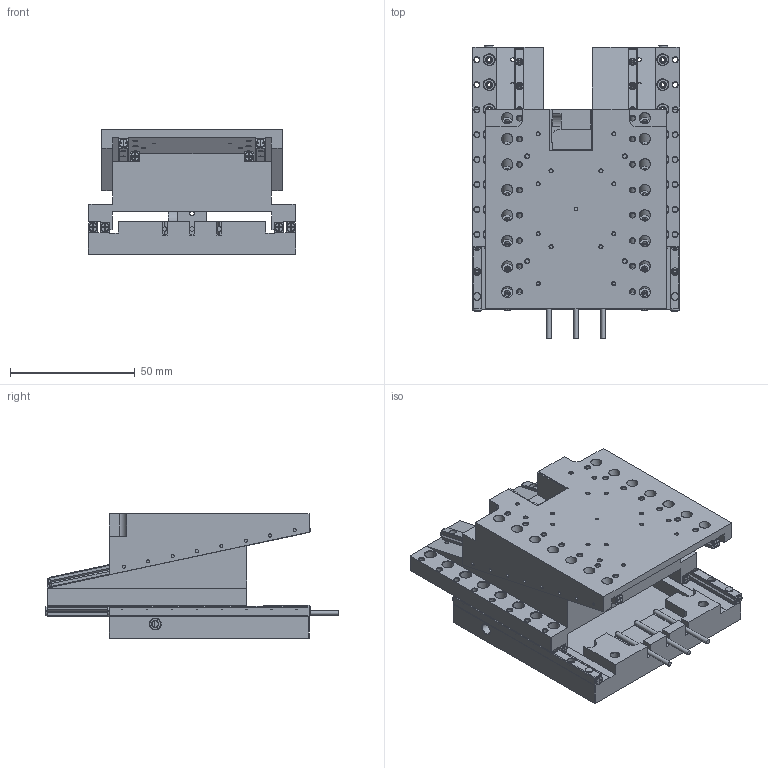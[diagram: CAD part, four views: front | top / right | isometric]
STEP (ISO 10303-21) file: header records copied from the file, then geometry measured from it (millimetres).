
FILE_DESCRIPTION(/* description */ ('Unknown'),/* implementation_level */ '2;1');
FILE_NAME(/* name */ 'XVP highest position (+10 mm) ',/* time_stamp */ '2022-07-28T16:48:36+02:00',/* author */ ('Simon Gulix'),/* organization */ ('KU Leuven'),/* preprocessor_version */ 'ST-DEVELOPER v18.1',/* originating_system */ 'Solid Edge',/* authorisation */ 'Unknown');
FILE_SCHEMA (('AUTOMOTIVE_DESIGN {1 0 10303 214 3 1 1}'));
Length unit declared in the file: millimetre
Products named in the file (7): wig finaal; bottom; SV1080- 21Z Body; top; middle; cable; m1.6 6mm
Assembly tree (16 placements, depth 2):
  wig finaal
    bottom
    SV1080- 21Z Body  x8
    top
    middle
    cable  x3
    m1.6 6mm  x2
Bounding box: 83 x 117.53 x 49.88 mm (x, y, z)
Volume: 187093.7 mm3; surface area: 77142.1 mm2
Topology: 16 solids, 16 shells, 1456 faces, 3560 edges, 2263 vertices
Faces by surface type: plane 685, cylinder 449, cone 322
Full cylindrical faces by diameter (mm): 1.25 x113, 1.567 x64, 1.6 x32, 1.8 x11, 2.05 x36, 2.4 x32, 2.5 x2, 3 x68, 3.3 x5, 3.5 x4, 3.6 x16, 4.4 x34
Entity records: 27064 total; most frequent: DIRECTION 3891, CARTESIAN_POINT 3386, ORIENTED_EDGE 2754, AXIS2_PLACEMENT_3D 1666, EDGE_LOOP 1629, FACE_BOUND 1629, EDGE_CURVE 1377, VERTEX_POINT 1132
